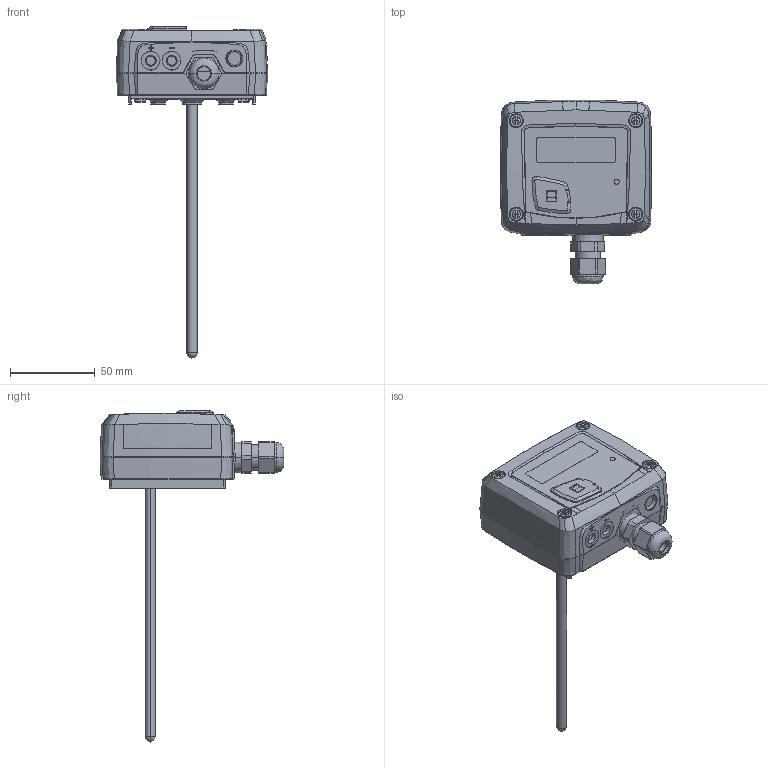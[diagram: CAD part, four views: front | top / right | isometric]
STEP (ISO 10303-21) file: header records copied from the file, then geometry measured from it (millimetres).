
FILE_DESCRIPTION((''),'2;1');
FILE_NAME('TM110_A_SW0001','2016-06-23T',('REFT'),(''),'PRO/ENGINEER BY PARAMETRIC TECHNOLOGY CORPORATION, 2012420','PRO/ENGINEER BY PARAMETRIC TECHNOLOGY CORPORATION, 2012420','');
FILE_SCHEMA(('CONFIG_CONTROL_DESIGN'));
Products named in the file (1): TM110_A_SW0001
Bounding box: 89.77 x 108.64 x 196.1 mm (x, y, z)
Volume: 274059.4 mm3; surface area: 53815.2 mm2
Topology: 2 solids, 3 shells, 1717 faces, 4521 edges, 2929 vertices
Faces by surface type: plane 890, extrusion 339, cylinder 250, bspline 104, cone 87, sphere 28, torus 17, revolution 2
Entity records: 59982 total; most frequent: CARTESIAN_POINT 19386, ORIENTED_EDGE 9030, DIRECTION 7002, EDGE_CURVE 4515, VECTOR 3164, VERTEX_POINT 2929, LINE 2825, AXIS2_PLACEMENT_3D 1918
